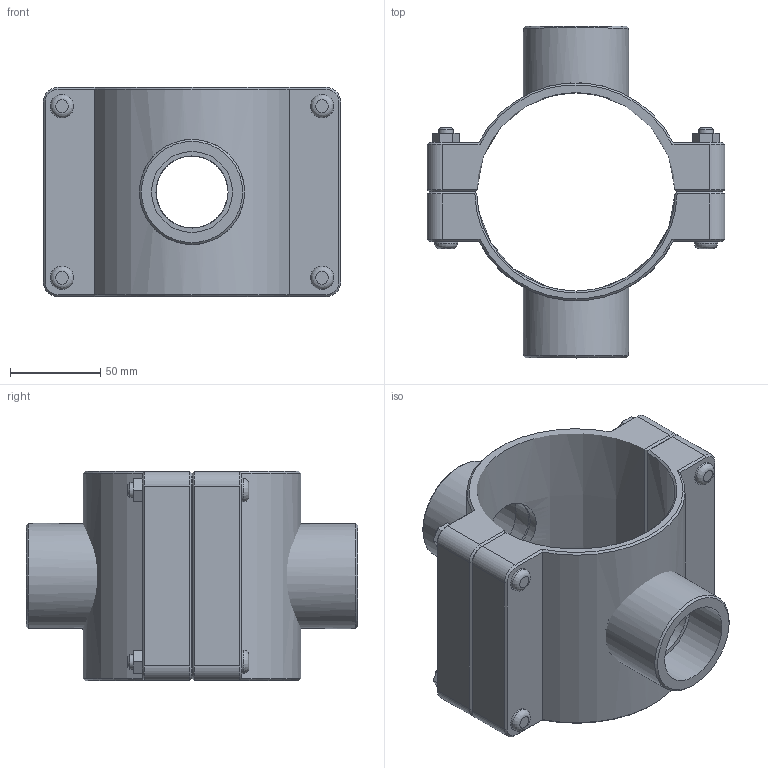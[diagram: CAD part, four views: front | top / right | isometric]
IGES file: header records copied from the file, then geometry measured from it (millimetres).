
Global section: file name: 161760110015_161860110015.ipt; native system: Autodesk Inventor 2015; preprocessor: unknown; author: KIM; date: 20170618.093743; units: millimetre
Bounding box: 165 x 184 x 116 mm (x, y, z)
Volume: 609061.5 mm3; surface area: 141228.1 mm2
Topology: 3 solids, 3 shells, 151 faces, 350 edges, 221 vertices
Faces by surface type: plane 84, cone 26, cylinder 24, revolution 17
Full cylindrical faces by diameter (mm): 8 x4, 13 x8, 58.298 x2
